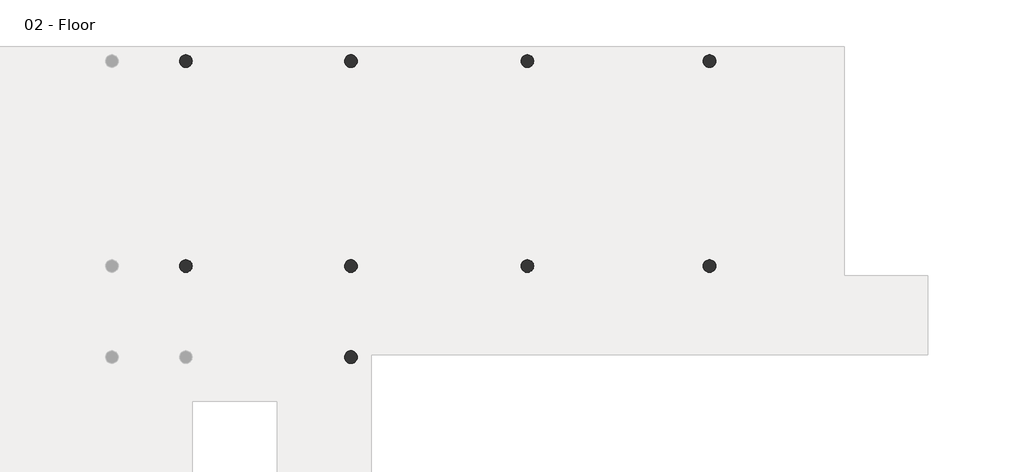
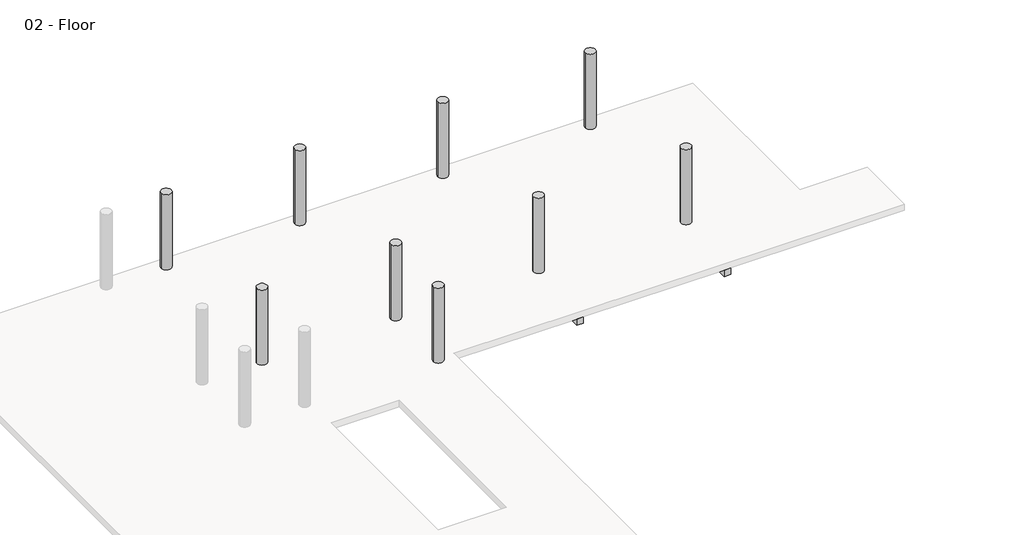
# One storey, part 9 of 9: 13 beams, 9 columns.
"""IFC4 building model written with IfcOpenShell, lengths in millimetres."""

from ifc_helpers import new_model, si_unit, point, frame, frame_2d, origin, place, context, project, spatial, polyline, circle_curve, trimmed, segment, composite_curve, outline, extrude, element, save
from ifc_brep_helpers import plane_surface, revolved_surface, advanced_brep

model = new_model("IFC4")

# Units and contexts
model_context = context("Model", 3, world=origin())
ifc_project = project(units=[si_unit("LENGTHUNIT", "METRE", prefix="MILLI")], contexts=[model_context])

# Site, building, storey
site = spatial("IfcSite", under=ifc_project)
building = spatial("IfcBuilding", under=site)
storey = spatial("IfcBuildingStorey", under=building, Name="02 - Floor", Elevation=3800.0)

# Beams
placement = place(None, origin())
element("IfcBeam", 1, ObjectType="M_Concrete-Rectangular Beam : 300 x 600mm", at=placement, inside=storey, context=model_context, shape_type="SweptSolid", body=[
    extrude(outline(composite_curve([segment(polyline([(6750.678199, 22478.5386199), (6797.6005584, 22478.5386199), (6797.6005584, 19595.0437183)]), True, "CONTINUOUS"), segment(trimmed(circle_curve(frame_2d((6647.6005584, 19427.3386199)), 225.0), [point((6797.6005584, 19595.0437183))], [point((6544.5229178, 19627.3386199))], True, "CARTESIAN"), True, "CONTINUOUS"), segment(polyline([(6544.5229178, 19627.3386199), (6497.6005584, 19627.3386199), (6497.6005584, 22478.5386199), (6544.5229178, 22478.5386199)]), True, "CONTINUOUS"), segment(trimmed(circle_curve(frame_2d((6647.6005584, 22678.5386199)), 225.0), [point((6544.5229178, 22478.5386199))], [point((6750.678199, 22478.5386199))], True, "CARTESIAN"), True, "CONTINUOUS")], self_intersect=False)), frame((0.0, 0.0, 3200.0), z_axis=(0.0, 0.0, 1.0), x_axis=(1.0, 0.0, 0.0)), (0.0, 0.0, 1.0), 300.0),
])
element("IfcBeam", 2, ObjectType="M_Concrete-Rectangular Beam : 300 x 600mm", at=placement, inside=storey, context=model_context, shape_type="SweptSolid", body=[
    extrude(outline(composite_curve([segment(polyline([(13096.8005584, 19514.0407562), (12796.8005584, 19514.0407562), (12796.8005584, 22478.5386199), (12843.7229178, 22478.5386199)]), True, "CONTINUOUS"), segment(trimmed(circle_curve(frame_2d((12946.8005584, 22678.5386199)), 225.0), [point((12843.7229178, 22478.5386199))], [point((13049.878199, 22478.5386199))], True, "CARTESIAN"), True, "CONTINUOUS"), segment(polyline([(13049.878199, 22478.5386199), (13096.8005584, 22478.5386199), (13096.8005584, 19514.0407562)]), True, "CONTINUOUS")], self_intersect=False)), frame((0.0, 0.0, 3200.0), z_axis=(0.0, 0.0, 1.0), x_axis=(1.0, 0.0, 0.0)), (0.0, 0.0, 1.0), 300.0),
])
element("IfcBeam", 3, ObjectType="M_Concrete-Rectangular Beam : 300 x 600mm", at=placement, inside=storey, context=model_context, shape_type="SweptSolid", body=[
    extrude(outline(composite_curve([segment(polyline([(19599.2005584, 19514.0407562), (19299.2005584, 19514.0407562), (19299.2005584, 22478.5386199), (19346.1229178, 22478.5386199)]), True, "CONTINUOUS"), segment(trimmed(circle_curve(frame_2d((19449.2005584, 22678.5386199)), 225.0), [point((19346.1229178, 22478.5386199))], [point((19552.278199, 22478.5386199))], True, "CARTESIAN"), True, "CONTINUOUS"), segment(polyline([(19552.278199, 22478.5386199), (19599.2005584, 22478.5386199), (19599.2005584, 19514.0407562)]), True, "CONTINUOUS")], self_intersect=False)), frame((0.0, 0.0, 3200.0), z_axis=(0.0, 0.0, 1.0), x_axis=(1.0, 0.0, 0.0)), (0.0, 0.0, 1.0), 300.0),
])
element("IfcBeam", 4, ObjectType="M_Concrete-Rectangular Beam : 400 x 800mm", at=placement, inside=storey, context=model_context, shape_type="AdvancedBrep", body=[
    advanced_brep(
    [(554.8005584, 29890.6609793, 3000.0), (554.8005584, 29793.7386199, 3000.0), (554.8005584, 22878.5386199, 3000.0), (554.8005584, 22781.6162606, 3000.0), (554.8005584, 22781.6162606, 3500.0), (554.8005584, 22878.5386199, 3500.0), (554.8005584, 29793.7386199, 3500.0), (554.8005584, 29890.6609793, 3500.0), (954.8005584, 29890.6609793, 3000.0), (954.8005584, 29793.7386199, 3000.0), (954.8005584, 22878.5386199, 3000.0), (954.8005584, 22781.6162606, 3000.0), (954.8005584, 29890.6609793, 3500.0), (954.8005584, 29793.7386199, 3500.0), (954.8005584, 22878.5386199, 3500.0), (954.8005584, 22781.6162606, 3500.0)],
    [
        (0, 1),
        (1, 2),
        (2, 3),
        (3, 4),
        (4, 5),
        (5, 6),
        (6, 7),
        (7, 0),
        (0, 8, circle_curve(frame((754.8005584, 29993.7386199, 3000.0), z_axis=(0.0, 0.0, 1.0), x_axis=(-1.0, 0.0, 0.0)), 225.0)),
        (8, 9),
        (9, 10),
        (10, 11),
        (11, 3, circle_curve(frame((754.8005584, 22678.5386199, 3000.0), z_axis=(0.0, 0.0, 1.0), x_axis=(-1.0, 0.0, 0.0)), 225.0)),
        (8, 12),
        (12, 13),
        (13, 14),
        (14, 15),
        (15, 11),
        (7, 12, circle_curve(frame((754.8005584, 29993.7386199, 3500.0), z_axis=(0.0, 0.0, 1.0), x_axis=(-1.0, 0.0, 0.0)), 225.0)),
        (15, 4, circle_curve(frame((754.8005584, 22678.5386199, 3500.0), z_axis=(0.0, 0.0, 1.0), x_axis=(-1.0, 0.0, 0.0)), 225.0)),
    ],
    [
        plane_surface(frame((554.8005584, 22916.2386199, 3800.0), z_axis=(-1.0, 0.0, 0.0), x_axis=(0.0, 1.0, 0.0))),
        plane_surface(frame((554.8005584, 22916.2386199, 3000.0), z_axis=(0.0, 0.0, -1.0), x_axis=(0.0, 1.0, 0.0))),
        plane_surface(frame((954.8005584, 22916.2386199, 3000.0), z_axis=(1.0, 0.0, 0.0), x_axis=(0.0, 1.0, 0.0))),
        revolved_surface(polyline([(529.8005584, 29993.7386199, 3500.0), (529.8005584, 29993.7386199, 3000.0)]), (754.8005584, 29993.7386199, 0.0), (0.0, 0.0, 1.0)),
        revolved_surface(polyline([(529.8005584, 22678.5386199, 3500.0), (529.8005584, 22678.5386199, 3000.0)]), (754.8005584, 22678.5386199, 0.0), (0.0, 0.0, 1.0)),
        plane_surface(frame((24268.8999097, 30514.0407562, 3500.0), z_axis=(0.0, 0.0, 1.0), x_axis=(0.0, -1.0, 0.0))),
    ],
    [
        (0, [[1, 2, 3, 4, 5, 6, 7, 8]]),
        (1, [[9, 10, 11, 12, 13, -3, -2, -1]]),
        (2, [[-12, -11, -10, 14, 15, 16, 17, 18]]),
        (3, [[-9, -8, 19, -14]]),
        (4, [[-13, -18, 20, -4]]),
        (5, [[-7, -6, -5, -20, -17, -16, -15, -19]]),
    ],
),
])
element("IfcBeam", 5, ObjectType="M_Concrete-Rectangular Beam : 400 x 800mm", at=placement, inside=storey, context=model_context, shape_type="AdvancedBrep", body=[
    advanced_brep(
    [(554.8005584, 22575.4609793, 3000.0), (554.8005584, 22478.5386199, 3000.0), (554.8005584, 19627.3386199, 3000.0), (554.8005584, 19530.4162606, 3000.0), (554.8005584, 19530.4162606, 3500.0), (554.8005584, 19627.3386199, 3500.0), (554.8005584, 22478.5386199, 3500.0), (554.8005584, 22575.4609793, 3500.0), (857.878199, 22478.5386199, 3000.0), (954.8005584, 22478.5386199, 3000.0), (954.8005584, 19627.3386199, 3000.0), (954.8005584, 19530.4162606, 3000.0), (954.8005584, 22478.5386199, 3500.0), (954.8005584, 19627.3386199, 3500.0), (954.8005584, 19530.4162606, 3500.0), (857.878199, 22478.5386199, 3500.0)],
    [
        (0, 1),
        (1, 2),
        (2, 3),
        (3, 4),
        (4, 5),
        (5, 6),
        (6, 7),
        (7, 0),
        (0, 8, circle_curve(frame((754.8005584, 22678.5386199, 3000.0), z_axis=(0.0, 0.0, 1.0), x_axis=(-1.0, 0.0, 0.0)), 225.0)),
        (8, 9),
        (9, 10),
        (10, 11),
        (11, 3, circle_curve(frame((754.8005584, 19427.3386199, 3000.0), z_axis=(0.0, 0.0, 1.0), x_axis=(-1.0, 0.0, 0.0)), 225.0)),
        (9, 12),
        (12, 13),
        (13, 14),
        (14, 11),
        (7, 15, circle_curve(frame((754.8005584, 22678.5386199, 3500.0), z_axis=(0.0, 0.0, 1.0), x_axis=(-1.0, 0.0, 0.0)), 225.0)),
        (15, 8),
        (15, 12),
        (14, 4, circle_curve(frame((754.8005584, 19427.3386199, 3500.0), z_axis=(0.0, 0.0, 1.0), x_axis=(-1.0, 0.0, 0.0)), 225.0)),
    ],
    [
        plane_surface(frame((554.8005584, 19665.0386199, 3400.0), z_axis=(-1.0, 0.0, 0.0), x_axis=(0.0, 0.0, -1.0))),
        plane_surface(frame((754.8005584, 19665.0386199, 3000.0), z_axis=(0.0, 0.0, -1.0), x_axis=(1.0, 0.0, 0.0))),
        plane_surface(frame((954.8005584, 19665.0386199, 3400.0), z_axis=(1.0, 0.0, 0.0), x_axis=(0.0, 0.0, 1.0))),
        revolved_surface(polyline([(529.8005584, 22678.5386199, 3500.0), (529.8005584, 22678.5386199, 3000.0)]), (754.8005584, 22678.5386199, 0.0), (0.0, 0.0, 1.0)),
        plane_surface(frame((992.5005584, 22478.5386199, 3400.0), z_axis=(0.0, 1.0, 0.0), x_axis=(0.0, 0.0, 1.0))),
        revolved_surface(polyline([(529.8005584, 19427.3386199, 3500.0), (529.8005584, 19427.3386199, 3000.0)]), (754.8005584, 19427.3386199, 0.0), (0.0, 0.0, 1.0)),
        plane_surface(frame((24268.8999097, 30514.0407562, 3500.0), z_axis=(0.0, 0.0, 1.0), x_axis=(0.0, -1.0, 0.0))),
    ],
    [
        (0, [[1, 2, 3, 4, 5, 6, 7, 8]]),
        (1, [[9, 10, 11, 12, 13, -3, -2, -1]]),
        (2, [[-12, -11, 14, 15, 16, 17]]),
        (3, [[-9, -8, 18, 19]]),
        (4, [[-10, -19, 20, -14]]),
        (5, [[-13, -17, 21, -4]]),
        (6, [[-7, -6, -5, -21, -16, -15, -20, -18]]),
    ],
),
])
element("IfcBeam", 6, ObjectType="M_Concrete-Rectangular Beam : 400 x 800mm", at=placement, inside=storey, context=model_context, shape_type="AdvancedBrep", body=[
    advanced_brep(
    [(24268.8999097, 30193.7386199, 3000.0), (19552.278199, 30193.7386199, 3000.0), (19552.278199, 30193.7386199, 3500.0), (24268.8999097, 30193.7386199, 3500.0), (19674.2005584, 29993.7386199, 3000.0), (24268.8999097, 29793.7386199, 3000.0), (19552.278199, 29793.7386199, 3000.0), (24268.8999097, 29793.7386199, 3500.0), (19599.2005584, 29793.7386199, 3500.0), (19552.278199, 29793.7386199, 3500.0), (19552.278199, 29793.7386199, 3200.0), (19674.2005584, 29993.7386199, 3500.0)],
    [
        (0, 1),
        (1, 2),
        (2, 3),
        (3, 0),
        (4, 1, circle_curve(frame((19449.2005584, 29993.7386199, 3000.0), z_axis=(0.0, 0.0, 1.0), x_axis=(-1.0, 0.0, 0.0)), 225.0)),
        (0, 5),
        (5, 6),
        (6, 4, circle_curve(frame((19449.2005584, 29993.7386199, 3000.0), z_axis=(0.0, 0.0, 1.0), x_axis=(-1.0, 0.0, 0.0)), 225.0)),
        (5, 7),
        (7, 8),
        (8, 9),
        (9, 10),
        (10, 6),
        (9, 11, circle_curve(frame((19449.2005584, 29993.7386199, 3500.0), z_axis=(0.0, 0.0, 1.0), x_axis=(-1.0, 0.0, 0.0)), 225.0)),
        (11, 4),
        (11, 2, circle_curve(frame((19449.2005584, 29993.7386199, 3500.0), z_axis=(0.0, 0.0, 1.0), x_axis=(-1.0, 0.0, 0.0)), 225.0)),
        (3, 7),
    ],
    [
        plane_surface(frame((19686.9005584, 30193.7386199, 3800.0), z_axis=(0.0, 1.0, 0.0), x_axis=(1.0, 0.0, 0.0))),
        plane_surface(frame((19686.9005584, 30193.7386199, 3000.0), z_axis=(0.0, 0.0, -1.0), x_axis=(1.0, 0.0, 0.0))),
        plane_surface(frame((19686.9005584, 29793.7386199, 3000.0), z_axis=(0.0, -1.0, 0.0), x_axis=(1.0, 0.0, 0.0))),
        revolved_surface(polyline([(19224.2005584, 29993.7386199, 3500.0), (19224.2005584, 29993.7386199, 3000.0)]), (19449.2005584, 29993.7386199, 0.0), (0.0, 0.0, 1.0)),
        plane_surface(frame((24268.8999097, 30792.0407562, 0.0), z_axis=(1.0, 0.0, 0.0), x_axis=(0.0, -1.0, 0.0))),
        plane_surface(frame((24268.8999097, 30514.0407562, 3500.0), z_axis=(0.0, 0.0, 1.0), x_axis=(0.0, -1.0, 0.0))),
    ],
    [
        (0, [[1, 2, 3, 4]]),
        (1, [[5, -1, 6, 7, 8]]),
        (2, [[-7, 9, 10, 11, 12, 13]]),
        (3, [[-8, -13, -12, 14, 15]]),
        (3, [[-5, -15, 16, -2]]),
        (4, [[-6, -4, 17, -9]]),
        (5, [[-3, -16, -14, -11, -10, -17]]),
    ],
),
])
element("IfcBeam", 7, ObjectType="M_Concrete-Rectangular Beam : 400 x 800mm", at=placement, inside=storey, context=model_context, shape_type="AdvancedBrep", body=[
    advanced_brep(
    [(19346.1229178, 30193.7386199, 3000.0), (13049.878199, 30193.7386199, 3000.0), (13049.878199, 30193.7386199, 3500.0), (19346.1229178, 30193.7386199, 3500.0), (13171.8005584, 29993.7386199, 3000.0), (19224.2005584, 29993.7386199, 3000.0), (19346.1229178, 29793.7386199, 3000.0), (13049.878199, 29793.7386199, 3000.0), (19346.1229178, 29793.7386199, 3200.0), (19299.2005584, 29793.7386199, 3200.0), (19299.2005584, 29793.7386199, 3500.0), (13096.8005584, 29793.7386199, 3500.0), (13049.878199, 29793.7386199, 3500.0), (13049.878199, 29793.7386199, 3200.0), (13171.8005584, 29993.7386199, 3500.0), (19299.2005584, 29826.0335216, 3200.0), (19299.2005584, 29826.0335216, 3500.0), (19224.2005584, 29993.7386199, 3500.0)],
    [
        (0, 1),
        (1, 2),
        (2, 3),
        (3, 0),
        (4, 1, circle_curve(frame((12946.8005584, 29993.7386199, 3000.0), z_axis=(0.0, 0.0, 1.0), x_axis=(-1.0, 0.0, 0.0)), 225.0)),
        (0, 5, circle_curve(frame((19449.2005584, 29993.7386199, 3000.0), z_axis=(0.0, 0.0, 1.0), x_axis=(-1.0, 0.0, 0.0)), 225.0)),
        (5, 6, circle_curve(frame((19449.2005584, 29993.7386199, 3000.0), z_axis=(0.0, 0.0, 1.0), x_axis=(-1.0, 0.0, 0.0)), 225.0)),
        (6, 7),
        (7, 4, circle_curve(frame((12946.8005584, 29993.7386199, 3000.0), z_axis=(0.0, 0.0, 1.0), x_axis=(-1.0, 0.0, 0.0)), 225.0)),
        (6, 8),
        (8, 9),
        (9, 10),
        (10, 11),
        (11, 12),
        (12, 13),
        (13, 7),
        (12, 14, circle_curve(frame((12946.8005584, 29993.7386199, 3500.0), z_axis=(0.0, 0.0, 1.0), x_axis=(-1.0, 0.0, 0.0)), 225.0)),
        (14, 4),
        (14, 2, circle_curve(frame((12946.8005584, 29993.7386199, 3500.0), z_axis=(0.0, 0.0, 1.0), x_axis=(-1.0, 0.0, 0.0)), 225.0)),
        (9, 15),
        (15, 16),
        (16, 10),
        (8, 15, circle_curve(frame((19449.2005584, 29993.7386199, 3200.0), z_axis=(0.0, 0.0, -1.0), x_axis=(-1.0, 0.0, 0.0)), 225.0)),
        (5, 17),
        (17, 16, circle_curve(frame((19449.2005584, 29993.7386199, 3500.0), z_axis=(0.0, 0.0, 1.0), x_axis=(-1.0, 0.0, 0.0)), 225.0)),
        (3, 17, circle_curve(frame((19449.2005584, 29993.7386199, 3500.0), z_axis=(0.0, 0.0, 1.0), x_axis=(-1.0, 0.0, 0.0)), 225.0)),
    ],
    [
        plane_surface(frame((13184.5005584, 30193.7386199, 3400.0), z_axis=(0.0, 1.0, 0.0), x_axis=(0.0, 0.0, -1.0))),
        plane_surface(frame((13184.5005584, 29993.7386199, 3000.0), z_axis=(0.0, 0.0, -1.0), x_axis=(0.0, -1.0, 0.0))),
        plane_surface(frame((13184.5005584, 29793.7386199, 3400.0), z_axis=(0.0, -1.0, 0.0), x_axis=(0.0, 0.0, 1.0))),
        revolved_surface(polyline([(12721.8005584, 29993.7386199, 3500.0), (12721.8005584, 29993.7386199, 3000.0)]), (12946.8005584, 29993.7386199, 0.0), (0.0, 0.0, 1.0)),
        plane_surface(frame((19299.2005584, 22916.2386199, 3800.0), z_axis=(1.0, 0.0, 0.0), x_axis=(0.0, 1.0, 0.0))),
        plane_surface(frame((19299.2005584, 22916.2386199, 3200.0), z_axis=(0.0, 0.0, 1.0), x_axis=(0.0, 1.0, 0.0))),
        revolved_surface(polyline([(19224.2005584, 29993.7386199, 3500.0), (19224.2005584, 29993.7386199, 3000.0)]), (19449.2005584, 29993.7386199, 0.0), (0.0, 0.0, 1.0)),
        plane_surface(frame((24268.8999097, 30514.0407562, 3500.0), z_axis=(0.0, 0.0, 1.0), x_axis=(0.0, -1.0, 0.0))),
    ],
    [
        (0, [[1, 2, 3, 4]]),
        (1, [[5, -1, 6, 7, 8, 9]]),
        (2, [[-8, 10, 11, 12, 13, 14, 15, 16]]),
        (3, [[-9, -16, -15, 17, 18]]),
        (3, [[-5, -18, 19, -2]]),
        (4, [[20, 21, 22, -12]]),
        (5, [[-11, 23, -20]]),
        (6, [[-7, 24, 25, -21, -23, -10]]),
        (6, [[-6, -4, 26, -24]]),
        (7, [[-3, -19, -17, -14, -13, -22, -25, -26]]),
    ],
),
])
element("IfcBeam", 8, ObjectType="M_Concrete-Rectangular Beam : 400 x 800mm", at=placement, inside=storey, context=model_context, shape_type="AdvancedBrep", body=[
    advanced_brep(
    [(12843.7229178, 30193.7386199, 3000.0), (6750.678199, 30193.7386199, 3000.0), (6750.678199, 30193.7386199, 3500.0), (12843.7229178, 30193.7386199, 3500.0), (6872.6005584, 29993.7386199, 3000.0), (12721.8005584, 29993.7386199, 3000.0), (12843.7229178, 29793.7386199, 3000.0), (6750.678199, 29793.7386199, 3000.0), (12843.7229178, 29793.7386199, 3200.0), (12796.8005584, 29793.7386199, 3200.0), (12796.8005584, 29793.7386199, 3500.0), (6797.6005584, 29793.7386199, 3500.0), (6750.678199, 29793.7386199, 3500.0), (6750.678199, 29793.7386199, 3200.0), (6872.6005584, 29993.7386199, 3500.0), (12796.8005584, 29826.0335216, 3200.0), (12796.8005584, 29826.0335216, 3500.0), (12721.8005584, 29993.7386199, 3500.0)],
    [
        (0, 1),
        (1, 2),
        (2, 3),
        (3, 0),
        (4, 1, circle_curve(frame((6647.6005584, 29993.7386199, 3000.0), z_axis=(0.0, 0.0, 1.0), x_axis=(-1.0, 0.0, 0.0)), 225.0)),
        (0, 5, circle_curve(frame((12946.8005584, 29993.7386199, 3000.0), z_axis=(0.0, 0.0, 1.0), x_axis=(-1.0, 0.0, 0.0)), 225.0)),
        (5, 6, circle_curve(frame((12946.8005584, 29993.7386199, 3000.0), z_axis=(0.0, 0.0, 1.0), x_axis=(-1.0, 0.0, 0.0)), 225.0)),
        (6, 7),
        (7, 4, circle_curve(frame((6647.6005584, 29993.7386199, 3000.0), z_axis=(0.0, 0.0, 1.0), x_axis=(-1.0, 0.0, 0.0)), 225.0)),
        (6, 8),
        (8, 9),
        (9, 10),
        (10, 11),
        (11, 12),
        (12, 13),
        (13, 7),
        (12, 14, circle_curve(frame((6647.6005584, 29993.7386199, 3500.0), z_axis=(0.0, 0.0, 1.0), x_axis=(-1.0, 0.0, 0.0)), 225.0)),
        (14, 4),
        (14, 2, circle_curve(frame((6647.6005584, 29993.7386199, 3500.0), z_axis=(0.0, 0.0, 1.0), x_axis=(-1.0, 0.0, 0.0)), 225.0)),
        (9, 15),
        (15, 16),
        (16, 10),
        (8, 15, circle_curve(frame((12946.8005584, 29993.7386199, 3200.0), z_axis=(0.0, 0.0, -1.0), x_axis=(-1.0, 0.0, 0.0)), 225.0)),
        (5, 17),
        (17, 16, circle_curve(frame((12946.8005584, 29993.7386199, 3500.0), z_axis=(0.0, 0.0, 1.0), x_axis=(-1.0, 0.0, 0.0)), 225.0)),
        (3, 17, circle_curve(frame((12946.8005584, 29993.7386199, 3500.0), z_axis=(0.0, 0.0, 1.0), x_axis=(-1.0, 0.0, 0.0)), 225.0)),
    ],
    [
        plane_surface(frame((6885.3005584, 30193.7386199, 3400.0), z_axis=(0.0, 1.0, 0.0), x_axis=(0.0, 0.0, -1.0))),
        plane_surface(frame((6885.3005584, 29993.7386199, 3000.0), z_axis=(0.0, 0.0, -1.0), x_axis=(0.0, -1.0, 0.0))),
        plane_surface(frame((6885.3005584, 29793.7386199, 3400.0), z_axis=(0.0, -1.0, 0.0), x_axis=(0.0, 0.0, 1.0))),
        revolved_surface(polyline([(6422.6005584, 29993.7386199, 3500.0), (6422.6005584, 29993.7386199, 3000.0)]), (6647.6005584, 29993.7386199, 0.0), (0.0, 0.0, 1.0)),
        plane_surface(frame((12796.8005584, 22916.2386199, 3800.0), z_axis=(1.0, 0.0, 0.0), x_axis=(0.0, 1.0, 0.0))),
        plane_surface(frame((12796.8005584, 22916.2386199, 3200.0), z_axis=(0.0, 0.0, 1.0), x_axis=(0.0, 1.0, 0.0))),
        revolved_surface(polyline([(12721.8005584, 29993.7386199, 3500.0), (12721.8005584, 29993.7386199, 3000.0)]), (12946.8005584, 29993.7386199, 0.0), (0.0, 0.0, 1.0)),
        plane_surface(frame((24268.8999097, 30514.0407562, 3500.0), z_axis=(0.0, 0.0, 1.0), x_axis=(0.0, -1.0, 0.0))),
    ],
    [
        (0, [[1, 2, 3, 4]]),
        (1, [[5, -1, 6, 7, 8, 9]]),
        (2, [[-8, 10, 11, 12, 13, 14, 15, 16]]),
        (3, [[-9, -16, -15, 17, 18]]),
        (3, [[-5, -18, 19, -2]]),
        (4, [[20, 21, 22, -12]]),
        (5, [[-11, 23, -20]]),
        (6, [[-7, 24, 25, -21, -23, -10]]),
        (6, [[-6, -4, 26, -24]]),
        (7, [[-3, -19, -17, -14, -13, -22, -25, -26]]),
    ],
),
])
element("IfcBeam", 9, ObjectType="M_Concrete-Rectangular Beam : 400 x 800mm", at=placement, inside=storey, context=model_context, shape_type="AdvancedBrep", body=[
    advanced_brep(
    [(6544.5229178, 30193.7386199, 3000.0), (857.878199, 30193.7386199, 3000.0), (857.878199, 30193.7386199, 3500.0), (6544.5229178, 30193.7386199, 3500.0), (954.8005584, 29793.7386199, 3000.0), (954.8005584, 29890.6609793, 3000.0), (979.8005584, 29993.7386199, 3000.0), (6422.6005584, 29993.7386199, 3000.0), (6544.5229178, 29793.7386199, 3000.0), (6544.5229178, 29793.7386199, 3200.0), (6497.6005584, 29793.7386199, 3200.0), (6497.6005584, 29793.7386199, 3500.0), (954.8005584, 29793.7386199, 3500.0), (954.8005584, 29890.6609793, 3500.0), (979.8005584, 29993.7386199, 3500.0), (6497.6005584, 29826.0335216, 3200.0), (6497.6005584, 29826.0335216, 3500.0), (6422.6005584, 29993.7386199, 3500.0)],
    [
        (0, 1),
        (1, 2),
        (2, 3),
        (3, 0),
        (4, 5),
        (5, 6, circle_curve(frame((754.8005584, 29993.7386199, 3000.0), z_axis=(0.0, 0.0, 1.0), x_axis=(-1.0, 0.0, 0.0)), 225.0)),
        (6, 1, circle_curve(frame((754.8005584, 29993.7386199, 3000.0), z_axis=(0.0, 0.0, 1.0), x_axis=(-1.0, 0.0, 0.0)), 225.0)),
        (0, 7, circle_curve(frame((6647.6005584, 29993.7386199, 3000.0), z_axis=(0.0, 0.0, 1.0), x_axis=(-1.0, 0.0, 0.0)), 225.0)),
        (7, 8, circle_curve(frame((6647.6005584, 29993.7386199, 3000.0), z_axis=(0.0, 0.0, 1.0), x_axis=(-1.0, 0.0, 0.0)), 225.0)),
        (8, 4),
        (8, 9),
        (9, 10),
        (10, 11),
        (11, 12),
        (12, 4),
        (12, 13),
        (13, 5),
        (13, 14, circle_curve(frame((754.8005584, 29993.7386199, 3500.0), z_axis=(0.0, 0.0, 1.0), x_axis=(-1.0, 0.0, 0.0)), 225.0)),
        (14, 6),
        (14, 2, circle_curve(frame((754.8005584, 29993.7386199, 3500.0), z_axis=(0.0, 0.0, 1.0), x_axis=(-1.0, 0.0, 0.0)), 225.0)),
        (10, 15),
        (15, 16),
        (16, 11),
        (9, 15, circle_curve(frame((6647.6005584, 29993.7386199, 3200.0), z_axis=(0.0, 0.0, -1.0), x_axis=(-1.0, 0.0, 0.0)), 225.0)),
        (7, 17),
        (17, 16, circle_curve(frame((6647.6005584, 29993.7386199, 3500.0), z_axis=(0.0, 0.0, 1.0), x_axis=(-1.0, 0.0, 0.0)), 225.0)),
        (3, 17, circle_curve(frame((6647.6005584, 29993.7386199, 3500.0), z_axis=(0.0, 0.0, 1.0), x_axis=(-1.0, 0.0, 0.0)), 225.0)),
    ],
    [
        plane_surface(frame((992.5005584, 30193.7386199, 3400.0), z_axis=(0.0, 1.0, 0.0), x_axis=(0.0, 0.0, -1.0))),
        plane_surface(frame((992.5005584, 29993.7386199, 3000.0), z_axis=(0.0, 0.0, -1.0), x_axis=(0.0, -1.0, 0.0))),
        plane_surface(frame((992.5005584, 29793.7386199, 3400.0), z_axis=(0.0, -1.0, 0.0), x_axis=(0.0, 0.0, 1.0))),
        plane_surface(frame((954.8005584, 22916.2386199, 3000.0), z_axis=(-1.0, 0.0, 0.0), x_axis=(0.0, 1.0, 0.0))),
        revolved_surface(polyline([(529.8005584, 29993.7386199, 3500.0), (529.8005584, 29993.7386199, 3000.0)]), (754.8005584, 29993.7386199, 0.0), (0.0, 0.0, 1.0)),
        plane_surface(frame((6497.6005584, 22916.2386199, 3800.0), z_axis=(1.0, 0.0, 0.0), x_axis=(0.0, 1.0, 0.0))),
        plane_surface(frame((6497.6005584, 22916.2386199, 3200.0), z_axis=(0.0, 0.0, 1.0), x_axis=(0.0, 1.0, 0.0))),
        revolved_surface(polyline([(6422.6005584, 29993.7386199, 3500.0), (6422.6005584, 29993.7386199, 3000.0)]), (6647.6005584, 29993.7386199, 0.0), (0.0, 0.0, 1.0)),
        plane_surface(frame((24268.8999097, 30514.0407562, 3500.0), z_axis=(0.0, 0.0, 1.0), x_axis=(0.0, -1.0, 0.0))),
    ],
    [
        (0, [[1, 2, 3, 4]]),
        (1, [[5, 6, 7, -1, 8, 9, 10]]),
        (2, [[-10, 11, 12, 13, 14, 15]]),
        (3, [[-5, -15, 16, 17]]),
        (4, [[-6, -17, 18, 19]]),
        (4, [[-7, -19, 20, -2]]),
        (5, [[21, 22, 23, -13]]),
        (6, [[-12, 24, -21]]),
        (7, [[-9, 25, 26, -22, -24, -11]]),
        (7, [[-8, -4, 27, -25]]),
        (8, [[-3, -20, -18, -16, -14, -23, -26, -27]]),
    ],
),
])
element("IfcBeam", 10, ObjectType="M_Concrete-Rectangular Beam : 400 x 800mm", at=placement, inside=storey, context=model_context, shape_type="AdvancedBrep", body=[
    advanced_brep(
    [(24268.8999097, 22878.5386199, 3000.0), (19552.278199, 22878.5386199, 3000.0), (19552.278199, 22878.5386199, 3200.0), (19552.278199, 22878.5386199, 3500.0), (19599.2005584, 22878.5386199, 3500.0), (24268.8999097, 22878.5386199, 3500.0), (19674.2005584, 22678.5386199, 3000.0), (24268.8999097, 22478.5386199, 3000.0), (19552.278199, 22478.5386199, 3000.0), (24268.8999097, 22478.5386199, 3500.0), (19599.2005584, 22478.5386199, 3500.0), (19552.278199, 22478.5386199, 3500.0), (19552.278199, 22478.5386199, 3200.0), (19674.2005584, 22678.5386199, 3500.0)],
    [
        (0, 1),
        (1, 2),
        (2, 3),
        (3, 4),
        (4, 5),
        (5, 0),
        (6, 1, circle_curve(frame((19449.2005584, 22678.5386199, 3000.0), z_axis=(0.0, 0.0, 1.0), x_axis=(-1.0, 0.0, 0.0)), 225.0)),
        (0, 7),
        (7, 8),
        (8, 6, circle_curve(frame((19449.2005584, 22678.5386199, 3000.0), z_axis=(0.0, 0.0, 1.0), x_axis=(-1.0, 0.0, 0.0)), 225.0)),
        (7, 9),
        (9, 10),
        (10, 11),
        (11, 12),
        (12, 8),
        (11, 13, circle_curve(frame((19449.2005584, 22678.5386199, 3500.0), z_axis=(0.0, 0.0, 1.0), x_axis=(-1.0, 0.0, 0.0)), 225.0)),
        (13, 6),
        (13, 3, circle_curve(frame((19449.2005584, 22678.5386199, 3500.0), z_axis=(0.0, 0.0, 1.0), x_axis=(-1.0, 0.0, 0.0)), 225.0)),
        (5, 9),
    ],
    [
        plane_surface(frame((19686.9005584, 22878.5386199, 3800.0), z_axis=(0.0, 1.0, 0.0), x_axis=(1.0, 0.0, 0.0))),
        plane_surface(frame((19686.9005584, 22878.5386199, 3000.0), z_axis=(0.0, 0.0, -1.0), x_axis=(1.0, 0.0, 0.0))),
        plane_surface(frame((19686.9005584, 22478.5386199, 3000.0), z_axis=(0.0, -1.0, 0.0), x_axis=(1.0, 0.0, 0.0))),
        revolved_surface(polyline([(19224.2005584, 22678.5386199, 3500.0), (19224.2005584, 22678.5386199, 3000.0)]), (19449.2005584, 22678.5386199, 0.0), (0.0, 0.0, 1.0)),
        plane_surface(frame((24268.8999097, 30792.0407562, 0.0), z_axis=(1.0, 0.0, 0.0), x_axis=(0.0, -1.0, 0.0))),
        plane_surface(frame((24268.8999097, 30514.0407562, 3500.0), z_axis=(0.0, 0.0, 1.0), x_axis=(0.0, -1.0, 0.0))),
    ],
    [
        (0, [[1, 2, 3, 4, 5, 6]]),
        (1, [[7, -1, 8, 9, 10]]),
        (2, [[-9, 11, 12, 13, 14, 15]]),
        (3, [[-10, -15, -14, 16, 17]]),
        (3, [[-7, -17, 18, -3, -2]]),
        (4, [[-8, -6, 19, -11]]),
        (5, [[-5, -4, -18, -16, -13, -12, -19]]),
    ],
),
])
element("IfcBeam", 11, ObjectType="M_Concrete-Rectangular Beam : 400 x 800mm", at=placement, inside=storey, context=model_context, shape_type="AdvancedBrep", body=[
    advanced_brep(
    [(19299.2005584, 22878.5386199, 3200.0), (19346.1229178, 22878.5386199, 3200.0), (19346.1229178, 22878.5386199, 3000.0), (13049.878199, 22878.5386199, 3000.0), (13049.878199, 22878.5386199, 3200.0), (13049.878199, 22878.5386199, 3500.0), (13096.8005584, 22878.5386199, 3500.0), (19299.2005584, 22878.5386199, 3500.0), (13171.8005584, 22678.5386199, 3000.0), (19224.2005584, 22678.5386199, 3000.0), (19346.1229178, 22478.5386199, 3000.0), (13049.878199, 22478.5386199, 3000.0), (19346.1229178, 22478.5386199, 3200.0), (19346.1229178, 22478.5386199, 3500.0), (19299.2005584, 22478.5386199, 3500.0), (13096.8005584, 22478.5386199, 3500.0), (13049.878199, 22478.5386199, 3500.0), (13049.878199, 22478.5386199, 3200.0), (13171.8005584, 22678.5386199, 3500.0), (19299.2005584, 22846.2437183, 3200.0), (19299.2005584, 22846.2437183, 3500.0), (19224.2005584, 22678.5386199, 3500.0)],
    [
        (0, 1),
        (1, 2),
        (2, 3),
        (3, 4),
        (4, 5),
        (5, 6),
        (6, 7),
        (7, 0),
        (8, 3, circle_curve(frame((12946.8005584, 22678.5386199, 3000.0), z_axis=(0.0, 0.0, 1.0), x_axis=(-1.0, 0.0, 0.0)), 225.0)),
        (2, 9, circle_curve(frame((19449.2005584, 22678.5386199, 3000.0), z_axis=(0.0, 0.0, 1.0), x_axis=(-1.0, 0.0, 0.0)), 225.0)),
        (9, 10, circle_curve(frame((19449.2005584, 22678.5386199, 3000.0), z_axis=(0.0, 0.0, 1.0), x_axis=(-1.0, 0.0, 0.0)), 225.0)),
        (10, 11),
        (11, 8, circle_curve(frame((12946.8005584, 22678.5386199, 3000.0), z_axis=(0.0, 0.0, 1.0), x_axis=(-1.0, 0.0, 0.0)), 225.0)),
        (10, 12),
        (12, 13),
        (13, 14),
        (14, 15),
        (15, 16),
        (16, 17),
        (17, 11),
        (16, 18, circle_curve(frame((12946.8005584, 22678.5386199, 3500.0), z_axis=(0.0, 0.0, 1.0), x_axis=(-1.0, 0.0, 0.0)), 225.0)),
        (18, 8),
        (18, 5, circle_curve(frame((12946.8005584, 22678.5386199, 3500.0), z_axis=(0.0, 0.0, 1.0), x_axis=(-1.0, 0.0, 0.0)), 225.0)),
        (19, 0),
        (7, 20),
        (20, 19),
        (19, 1, circle_curve(frame((19449.2005584, 22678.5386199, 3200.0), z_axis=(0.0, 0.0, -1.0), x_axis=(-1.0, 0.0, 0.0)), 225.0)),
        (9, 21),
        (21, 13, circle_curve(frame((19449.2005584, 22678.5386199, 3500.0), z_axis=(0.0, 0.0, 1.0), x_axis=(-1.0, 0.0, 0.0)), 225.0)),
        (20, 21, circle_curve(frame((19449.2005584, 22678.5386199, 3500.0), z_axis=(0.0, 0.0, 1.0), x_axis=(-1.0, 0.0, 0.0)), 225.0)),
    ],
    [
        plane_surface(frame((13184.5005584, 22878.5386199, 3400.0), z_axis=(0.0, 1.0, 0.0), x_axis=(0.0, 0.0, -1.0))),
        plane_surface(frame((13184.5005584, 22678.5386199, 3000.0), z_axis=(0.0, 0.0, -1.0), x_axis=(0.0, -1.0, 0.0))),
        plane_surface(frame((13184.5005584, 22478.5386199, 3400.0), z_axis=(0.0, -1.0, 0.0), x_axis=(0.0, 0.0, 1.0))),
        revolved_surface(polyline([(12721.8005584, 22678.5386199, 3500.0), (12721.8005584, 22678.5386199, 3000.0)]), (12946.8005584, 22678.5386199, 0.0), (0.0, 0.0, 1.0)),
        plane_surface(frame((19299.2005584, 22916.2386199, 3800.0), z_axis=(1.0, 0.0, 0.0), x_axis=(0.0, 1.0, 0.0))),
        plane_surface(frame((19299.2005584, 22916.2386199, 3200.0), z_axis=(0.0, 0.0, 1.0), x_axis=(0.0, 1.0, 0.0))),
        revolved_surface(polyline([(19224.2005584, 22678.5386199, 3500.0), (19224.2005584, 22678.5386199, 3000.0)]), (19449.2005584, 22678.5386199, 0.0), (0.0, 0.0, 1.0)),
        plane_surface(frame((24268.8999097, 30514.0407562, 3500.0), z_axis=(0.0, 0.0, 1.0), x_axis=(0.0, -1.0, 0.0))),
    ],
    [
        (0, [[1, 2, 3, 4, 5, 6, 7, 8]]),
        (1, [[9, -3, 10, 11, 12, 13]]),
        (2, [[-12, 14, 15, 16, 17, 18, 19, 20]]),
        (3, [[-13, -20, -19, 21, 22]]),
        (3, [[-9, -22, 23, -5, -4]]),
        (4, [[24, -8, 25, 26]]),
        (5, [[-1, -24, 27]]),
        (6, [[-11, 28, 29, -15, -14]]),
        (6, [[-2, -27, -26, 30, -28, -10]]),
        (7, [[-7, -6, -23, -21, -18, -17, -16, -29, -30, -25]]),
    ],
),
])
element("IfcBeam", 12, ObjectType="M_Concrete-Rectangular Beam : 400 x 800mm", at=placement, inside=storey, context=model_context, shape_type="AdvancedBrep", body=[
    advanced_brep(
    [(12843.7229178, 22878.5386199, 3000.0), (6750.678199, 22878.5386199, 3000.0), (6750.678199, 22878.5386199, 3200.0), (6750.678199, 22878.5386199, 3500.0), (6797.6005584, 22878.5386199, 3500.0), (12796.8005584, 22878.5386199, 3500.0), (12796.8005584, 22878.5386199, 3200.0), (12843.7229178, 22878.5386199, 3200.0), (6872.6005584, 22678.5386199, 3000.0), (12721.8005584, 22678.5386199, 3000.0), (12843.7229178, 22478.5386199, 3000.0), (6750.678199, 22478.5386199, 3000.0), (12843.7229178, 22478.5386199, 3200.0), (12843.7229178, 22478.5386199, 3500.0), (12796.8005584, 22478.5386199, 3500.0), (6797.6005584, 22478.5386199, 3500.0), (6750.678199, 22478.5386199, 3500.0), (6750.678199, 22478.5386199, 3200.0), (6872.6005584, 22678.5386199, 3500.0), (12721.8005584, 22678.5386199, 3500.0), (12796.8005584, 22846.2437183, 3200.0), (12796.8005584, 22846.2437183, 3500.0)],
    [
        (0, 1),
        (1, 2),
        (2, 3),
        (3, 4),
        (4, 5),
        (5, 6),
        (6, 7),
        (7, 0),
        (8, 1, circle_curve(frame((6647.6005584, 22678.5386199, 3000.0), z_axis=(0.0, 0.0, 1.0), x_axis=(-1.0, 0.0, 0.0)), 225.0)),
        (0, 9, circle_curve(frame((12946.8005584, 22678.5386199, 3000.0), z_axis=(0.0, 0.0, 1.0), x_axis=(-1.0, 0.0, 0.0)), 225.0)),
        (9, 10, circle_curve(frame((12946.8005584, 22678.5386199, 3000.0), z_axis=(0.0, 0.0, 1.0), x_axis=(-1.0, 0.0, 0.0)), 225.0)),
        (10, 11),
        (11, 8, circle_curve(frame((6647.6005584, 22678.5386199, 3000.0), z_axis=(0.0, 0.0, 1.0), x_axis=(-1.0, 0.0, 0.0)), 225.0)),
        (10, 12),
        (12, 13),
        (13, 14),
        (14, 15),
        (15, 16),
        (16, 17),
        (17, 11),
        (16, 18, circle_curve(frame((6647.6005584, 22678.5386199, 3500.0), z_axis=(0.0, 0.0, 1.0), x_axis=(-1.0, 0.0, 0.0)), 225.0)),
        (18, 8),
        (18, 3, circle_curve(frame((6647.6005584, 22678.5386199, 3500.0), z_axis=(0.0, 0.0, 1.0), x_axis=(-1.0, 0.0, 0.0)), 225.0)),
        (9, 19),
        (19, 13, circle_curve(frame((12946.8005584, 22678.5386199, 3500.0), z_axis=(0.0, 0.0, 1.0), x_axis=(-1.0, 0.0, 0.0)), 225.0)),
        (7, 20, circle_curve(frame((12946.8005584, 22678.5386199, 3200.0), z_axis=(0.0, 0.0, 1.0), x_axis=(-1.0, 0.0, 0.0)), 225.0)),
        (20, 21),
        (21, 19, circle_curve(frame((12946.8005584, 22678.5386199, 3500.0), z_axis=(0.0, 0.0, 1.0), x_axis=(-1.0, 0.0, 0.0)), 225.0)),
        (20, 6),
        (5, 21),
    ],
    [
        plane_surface(frame((6885.3005584, 22878.5386199, 3400.0), z_axis=(0.0, 1.0, 0.0), x_axis=(0.0, 0.0, -1.0))),
        plane_surface(frame((6885.3005584, 22678.5386199, 3000.0), z_axis=(0.0, 0.0, -1.0), x_axis=(0.0, -1.0, 0.0))),
        plane_surface(frame((6885.3005584, 22478.5386199, 3400.0), z_axis=(0.0, -1.0, 0.0), x_axis=(0.0, 0.0, 1.0))),
        revolved_surface(polyline([(6422.6005584, 22678.5386199, 3500.0), (6422.6005584, 22678.5386199, 3000.0)]), (6647.6005584, 22678.5386199, 0.0), (0.0, 0.0, 1.0)),
        revolved_surface(polyline([(12721.8005584, 22678.5386199, 3500.0), (12721.8005584, 22678.5386199, 3000.0)]), (12946.8005584, 22678.5386199, 0.0), (0.0, 0.0, 1.0)),
        plane_surface(frame((12796.8005584, 22916.2386199, 3800.0), z_axis=(1.0, 0.0, 0.0), x_axis=(0.0, 1.0, 0.0))),
        plane_surface(frame((12796.8005584, 22916.2386199, 3200.0), z_axis=(0.0, 0.0, 1.0), x_axis=(0.0, 1.0, 0.0))),
        plane_surface(frame((24268.8999097, 30514.0407562, 3500.0), z_axis=(0.0, 0.0, 1.0), x_axis=(0.0, -1.0, 0.0))),
    ],
    [
        (0, [[1, 2, 3, 4, 5, 6, 7, 8]]),
        (1, [[9, -1, 10, 11, 12, 13]]),
        (2, [[-12, 14, 15, 16, 17, 18, 19, 20]]),
        (3, [[-13, -20, -19, 21, 22]]),
        (3, [[-9, -22, 23, -3, -2]]),
        (4, [[-11, 24, 25, -15, -14]]),
        (4, [[-10, -8, 26, 27, 28, -24]]),
        (5, [[29, -6, 30, -27]]),
        (6, [[-29, -26, -7]]),
        (7, [[-5, -4, -23, -21, -18, -17, -16, -25, -28, -30]]),
    ],
),
])
element("IfcBeam", 13, ObjectType="M_Concrete-Rectangular Beam : 400 x 800mm", at=placement, inside=storey, context=model_context, shape_type="AdvancedBrep", body=[
    advanced_brep(
    [(6544.5229178, 22878.5386199, 3000.0), (954.8005584, 22878.5386199, 3000.0), (954.8005584, 22878.5386199, 3500.0), (6497.6005584, 22878.5386199, 3500.0), (6497.6005584, 22878.5386199, 3200.0), (6544.5229178, 22878.5386199, 3200.0), (857.878199, 22478.5386199, 3000.0), (979.8005584, 22678.5386199, 3000.0), (954.8005584, 22781.6162606, 3000.0), (6422.6005584, 22678.5386199, 3000.0), (6544.5229178, 22478.5386199, 3000.0), (954.8005584, 22478.5386199, 3000.0), (6544.5229178, 22478.5386199, 3200.0), (6544.5229178, 22478.5386199, 3500.0), (6497.6005584, 22478.5386199, 3500.0), (954.8005584, 22478.5386199, 3500.0), (857.878199, 22478.5386199, 3500.0), (979.8005584, 22678.5386199, 3500.0), (954.8005584, 22781.6162606, 3500.0), (6422.6005584, 22678.5386199, 3500.0), (6497.6005584, 22846.2437183, 3200.0), (6497.6005584, 22846.2437183, 3500.0)],
    [
        (0, 1),
        (1, 2),
        (2, 3),
        (3, 4),
        (4, 5),
        (5, 0),
        (6, 7, circle_curve(frame((754.8005584, 22678.5386199, 3000.0), z_axis=(0.0, 0.0, 1.0), x_axis=(-1.0, 0.0, 0.0)), 225.0)),
        (7, 8, circle_curve(frame((754.8005584, 22678.5386199, 3000.0), z_axis=(0.0, 0.0, 1.0), x_axis=(-1.0, 0.0, 0.0)), 225.0)),
        (8, 1),
        (0, 9, circle_curve(frame((6647.6005584, 22678.5386199, 3000.0), z_axis=(0.0, 0.0, 1.0), x_axis=(-1.0, 0.0, 0.0)), 225.0)),
        (9, 10, circle_curve(frame((6647.6005584, 22678.5386199, 3000.0), z_axis=(0.0, 0.0, 1.0), x_axis=(-1.0, 0.0, 0.0)), 225.0)),
        (10, 11),
        (11, 6),
        (10, 12),
        (12, 13),
        (13, 14),
        (14, 15),
        (15, 16),
        (16, 6),
        (16, 17, circle_curve(frame((754.8005584, 22678.5386199, 3500.0), z_axis=(0.0, 0.0, 1.0), x_axis=(-1.0, 0.0, 0.0)), 225.0)),
        (17, 7),
        (17, 18, circle_curve(frame((754.8005584, 22678.5386199, 3500.0), z_axis=(0.0, 0.0, 1.0), x_axis=(-1.0, 0.0, 0.0)), 225.0)),
        (18, 8),
        (18, 2),
        (9, 19),
        (19, 13, circle_curve(frame((6647.6005584, 22678.5386199, 3500.0), z_axis=(0.0, 0.0, 1.0), x_axis=(-1.0, 0.0, 0.0)), 225.0)),
        (5, 20, circle_curve(frame((6647.6005584, 22678.5386199, 3200.0), z_axis=(0.0, 0.0, 1.0), x_axis=(-1.0, 0.0, 0.0)), 225.0)),
        (20, 21),
        (21, 19, circle_curve(frame((6647.6005584, 22678.5386199, 3500.0), z_axis=(0.0, 0.0, 1.0), x_axis=(-1.0, 0.0, 0.0)), 225.0)),
        (20, 4),
        (3, 21),
    ],
    [
        plane_surface(frame((992.5005584, 22878.5386199, 3400.0), z_axis=(0.0, 1.0, 0.0), x_axis=(0.0, 0.0, -1.0))),
        plane_surface(frame((992.5005584, 22678.5386199, 3000.0), z_axis=(0.0, 0.0, -1.0), x_axis=(0.0, -1.0, 0.0))),
        plane_surface(frame((992.5005584, 22478.5386199, 3400.0), z_axis=(0.0, -1.0, 0.0), x_axis=(0.0, 0.0, 1.0))),
        revolved_surface(polyline([(529.8005584, 22678.5386199, 3500.0), (529.8005584, 22678.5386199, 3000.0)]), (754.8005584, 22678.5386199, 0.0), (0.0, 0.0, 1.0)),
        plane_surface(frame((954.8005584, 22916.2386199, 3000.0), z_axis=(-1.0, 0.0, 0.0), x_axis=(0.0, 1.0, 0.0))),
        revolved_surface(polyline([(6422.6005584, 22678.5386199, 3500.0), (6422.6005584, 22678.5386199, 3000.0)]), (6647.6005584, 22678.5386199, 0.0), (0.0, 0.0, 1.0)),
        plane_surface(frame((6497.6005584, 22916.2386199, 3800.0), z_axis=(1.0, 0.0, 0.0), x_axis=(0.0, 1.0, 0.0))),
        plane_surface(frame((6497.6005584, 22916.2386199, 3200.0), z_axis=(0.0, 0.0, 1.0), x_axis=(0.0, 1.0, 0.0))),
        plane_surface(frame((24268.8999097, 30514.0407562, 3500.0), z_axis=(0.0, 0.0, 1.0), x_axis=(0.0, -1.0, 0.0))),
    ],
    [
        (0, [[1, 2, 3, 4, 5, 6]]),
        (1, [[7, 8, 9, -1, 10, 11, 12, 13]]),
        (2, [[-13, -12, 14, 15, 16, 17, 18, 19]]),
        (3, [[-7, -19, 20, 21]]),
        (3, [[-8, -21, 22, 23]]),
        (4, [[-9, -23, 24, -2]]),
        (5, [[-11, 25, 26, -15, -14]]),
        (5, [[-10, -6, 27, 28, 29, -25]]),
        (6, [[30, -4, 31, -28]]),
        (7, [[-30, -27, -5]]),
        (8, [[-3, -24, -22, -20, -18, -17, -16, -26, -29, -31]]),
    ],
),
])

# Columns
element("IfcColumn", 14, ObjectType="M_Concrete-Round-Column : 450mm", at=placement, inside=storey, context=model_context, shape_type="SweptSolid", body=[
    extrude(outline(composite_curve([segment(trimmed(circle_curve(frame_2d((754.8005584, 29993.7386199)), 225.0), [point((979.8005584, 29993.7386199))], [point((529.8005584, 29993.7386199))], False, "CARTESIAN"), True, "CONTINUOUS"), segment(trimmed(circle_curve(frame_2d((754.8005584, 29993.7386199)), 225.0), [point((529.8005584, 29993.7386199))], [point((979.8005584, 29993.7386199))], False, "CARTESIAN"), True, "CONTINUOUS")], self_intersect=False)), frame((0.0, 0.0, 3800.0), z_axis=(0.0, 0.0, 1.0), x_axis=(1.0, 0.0, 0.0)), (0.0, 0.0, 1.0), 3500.0),
])
element("IfcColumn", 15, ObjectType="M_Concrete-Round-Column : 450mm", at=placement, inside=storey, context=model_context, shape_type="SweptSolid", body=[
    extrude(outline(composite_curve([segment(trimmed(circle_curve(frame_2d((754.8005584, 22678.5386199)), 225.0), [point((979.8005584, 22678.5386199))], [point((529.8005584, 22678.5386199))], False, "CARTESIAN"), True, "CONTINUOUS"), segment(trimmed(circle_curve(frame_2d((754.8005584, 22678.5386199)), 225.0), [point((529.8005584, 22678.5386199))], [point((979.8005584, 22678.5386199))], False, "CARTESIAN"), True, "CONTINUOUS")], self_intersect=False)), frame((0.0, 0.0, 3800.0), z_axis=(0.0, 0.0, 1.0), x_axis=(1.0, 0.0, 0.0)), (0.0, 0.0, 1.0), 3500.0),
])
element("IfcColumn", 16, ObjectType="M_Concrete-Round-Column : 450mm", at=placement, inside=storey, context=model_context, shape_type="SweptSolid", body=[
    extrude(outline(composite_curve([segment(trimmed(circle_curve(frame_2d((6647.6005584, 29993.7386199)), 225.0), [point((6872.6005584, 29993.7386199))], [point((6422.6005584, 29993.7386199))], False, "CARTESIAN"), True, "CONTINUOUS"), segment(trimmed(circle_curve(frame_2d((6647.6005584, 29993.7386199)), 225.0), [point((6422.6005584, 29993.7386199))], [point((6872.6005584, 29993.7386199))], False, "CARTESIAN"), True, "CONTINUOUS")], self_intersect=False)), frame((0.0, 0.0, 3800.0), z_axis=(0.0, 0.0, 1.0), x_axis=(1.0, 0.0, 0.0)), (0.0, 0.0, 1.0), 3500.0),
])
element("IfcColumn", 17, ObjectType="M_Concrete-Round-Column : 450mm", at=placement, inside=storey, context=model_context, shape_type="SweptSolid", body=[
    extrude(outline(composite_curve([segment(trimmed(circle_curve(frame_2d((6647.6005584, 22678.5386199)), 225.0), [point((6872.6005584, 22678.5386199))], [point((6422.6005584, 22678.5386199))], False, "CARTESIAN"), True, "CONTINUOUS"), segment(trimmed(circle_curve(frame_2d((6647.6005584, 22678.5386199)), 225.0), [point((6422.6005584, 22678.5386199))], [point((6872.6005584, 22678.5386199))], False, "CARTESIAN"), True, "CONTINUOUS")], self_intersect=False)), frame((0.0, 0.0, 3800.0), z_axis=(0.0, 0.0, 1.0), x_axis=(1.0, 0.0, 0.0)), (0.0, 0.0, 1.0), 3500.0),
])
element("IfcColumn", 18, ObjectType="M_Concrete-Round-Column : 450mm", at=placement, inside=storey, context=model_context, shape_type="SweptSolid", body=[
    extrude(outline(composite_curve([segment(trimmed(circle_curve(frame_2d((6647.6005584, 19427.3386199)), 225.0), [point((6872.6005584, 19427.3386199))], [point((6422.6005584, 19427.3386199))], False, "CARTESIAN"), True, "CONTINUOUS"), segment(trimmed(circle_curve(frame_2d((6647.6005584, 19427.3386199)), 225.0), [point((6422.6005584, 19427.3386199))], [point((6872.6005584, 19427.3386199))], False, "CARTESIAN"), True, "CONTINUOUS")], self_intersect=False)), frame((0.0, 0.0, 3800.0), z_axis=(0.0, 0.0, 1.0), x_axis=(1.0, 0.0, 0.0)), (0.0, 0.0, 1.0), 3500.0),
])
element("IfcColumn", 19, ObjectType="M_Concrete-Round-Column : 450mm", at=placement, inside=storey, context=model_context, shape_type="SweptSolid", body=[
    extrude(outline(composite_curve([segment(trimmed(circle_curve(frame_2d((12946.8005584, 29993.7386199)), 225.0), [point((13171.8005584, 29993.7386199))], [point((12721.8005584, 29993.7386199))], False, "CARTESIAN"), True, "CONTINUOUS"), segment(trimmed(circle_curve(frame_2d((12946.8005584, 29993.7386199)), 225.0), [point((12721.8005584, 29993.7386199))], [point((13171.8005584, 29993.7386199))], False, "CARTESIAN"), True, "CONTINUOUS")], self_intersect=False)), frame((0.0, 0.0, 3800.0), z_axis=(0.0, 0.0, 1.0), x_axis=(1.0, 0.0, 0.0)), (0.0, 0.0, 1.0), 3500.0),
])
element("IfcColumn", 20, ObjectType="M_Concrete-Round-Column : 450mm", at=placement, inside=storey, context=model_context, shape_type="SweptSolid", body=[
    extrude(outline(composite_curve([segment(trimmed(circle_curve(frame_2d((12946.8005584, 22678.5386199)), 225.0), [point((13171.8005584, 22678.5386199))], [point((12721.8005584, 22678.5386199))], False, "CARTESIAN"), True, "CONTINUOUS"), segment(trimmed(circle_curve(frame_2d((12946.8005584, 22678.5386199)), 225.0), [point((12721.8005584, 22678.5386199))], [point((13171.8005584, 22678.5386199))], False, "CARTESIAN"), True, "CONTINUOUS")], self_intersect=False)), frame((0.0, 0.0, 3800.0), z_axis=(0.0, 0.0, 1.0), x_axis=(1.0, 0.0, 0.0)), (0.0, 0.0, 1.0), 3500.0),
])
element("IfcColumn", 21, ObjectType="M_Concrete-Round-Column : 450mm", at=placement, inside=storey, context=model_context, shape_type="SweptSolid", body=[
    extrude(outline(composite_curve([segment(trimmed(circle_curve(frame_2d((19449.2005584, 29993.7386199)), 225.0), [point((19674.2005584, 29993.7386199))], [point((19224.2005584, 29993.7386199))], False, "CARTESIAN"), True, "CONTINUOUS"), segment(trimmed(circle_curve(frame_2d((19449.2005584, 29993.7386199)), 225.0), [point((19224.2005584, 29993.7386199))], [point((19674.2005584, 29993.7386199))], False, "CARTESIAN"), True, "CONTINUOUS")], self_intersect=False)), frame((0.0, 0.0, 3800.0), z_axis=(0.0, 0.0, 1.0), x_axis=(1.0, 0.0, 0.0)), (0.0, 0.0, 1.0), 3500.0),
])
element("IfcColumn", 22, ObjectType="M_Concrete-Round-Column : 450mm", at=placement, inside=storey, context=model_context, shape_type="SweptSolid", body=[
    extrude(outline(composite_curve([segment(trimmed(circle_curve(frame_2d((19449.2005584, 22678.5386199)), 225.0), [point((19674.2005584, 22678.5386199))], [point((19224.2005584, 22678.5386199))], False, "CARTESIAN"), True, "CONTINUOUS"), segment(trimmed(circle_curve(frame_2d((19449.2005584, 22678.5386199)), 225.0), [point((19224.2005584, 22678.5386199))], [point((19674.2005584, 22678.5386199))], False, "CARTESIAN"), True, "CONTINUOUS")], self_intersect=False)), frame((0.0, 0.0, 3800.0), z_axis=(0.0, 0.0, 1.0), x_axis=(1.0, 0.0, 0.0)), (0.0, 0.0, 1.0), 3500.0),
])

save(model, "model.ifc")
